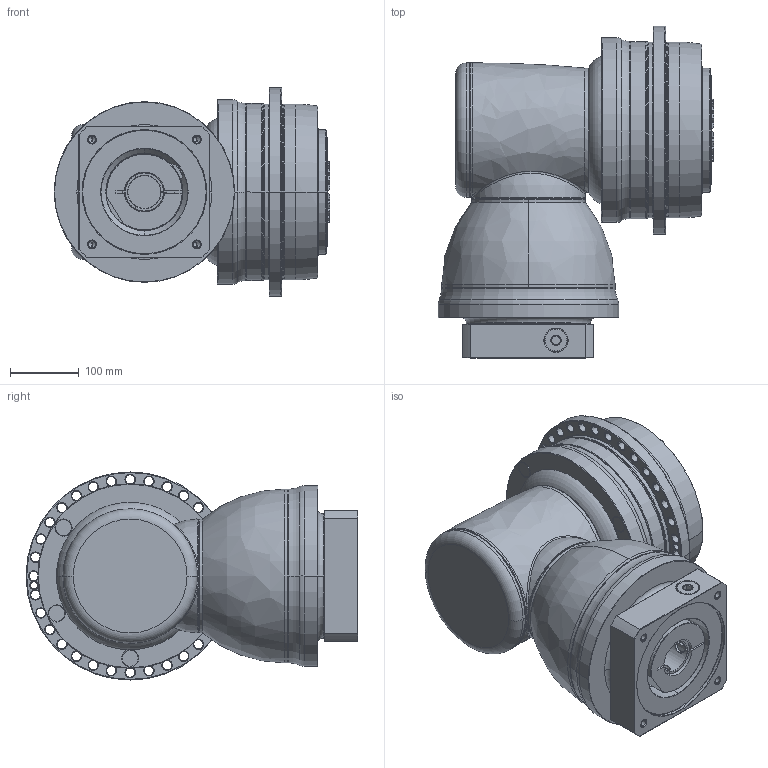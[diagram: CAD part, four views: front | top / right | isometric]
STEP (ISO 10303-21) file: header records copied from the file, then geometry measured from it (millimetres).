
FILE_DESCRIPTION((''),'2;1');
FILE_NAME('APCK255_2ST_SBG_48-P0409B10201_ASM','2018-05-21T',('d01226'),(''),'PRO/ENGINEER BY PARAMETRIC TECHNOLOGY CORPORATION, 2008410','PRO/ENGINEER BY PARAMETRIC TECHNOLOGY CORPORATION, 2008410','');
FILE_SCHEMA(('CONFIG_CONTROL_DESIGN'));
Length unit declared in the file: millimetre
Products named in the file (13): P0278701003; P0359770103; P1211700001; P1802710001; P1018700002; P1365700001; P1007701001; P1318701301; P0409B10201; P0503B00016; P0912753001; 21711426021; APCK255_2ST_SBG_48-P0409B10201_ASM
Assembly tree (12 placements, depth 2):
  APCK255_2ST_SBG_48-P0409B10201_ASM
    P0278701003
    P0359770103
    P1211700001
    P1802710001
    P1018700002
    P1365700001
    P1007701001
    P1318701301
    P0409B10201
    P0503B00016
    P0912753001
    21711426021
Bounding box: 400.1 x 481.5 x 302 mm (x, y, z)
Volume: 23919221.1 mm3; surface area: 1475103.1 mm2
Topology: 13 solids, 25 shells, 857 faces, 2071 edges, 1270 vertices
Faces by surface type: cone 275, cylinder 272, plane 153, torus 125, bspline 31, sphere 1
Entity records: 32284 total; most frequent: CARTESIAN_POINT 11659, DIRECTION 4623, ORIENTED_EDGE 4064, EDGE_CURVE 2057, AXIS2_PLACEMENT_3D 2025, VERTEX_POINT 1270, CIRCLE 1162, EDGE_LOOP 985
